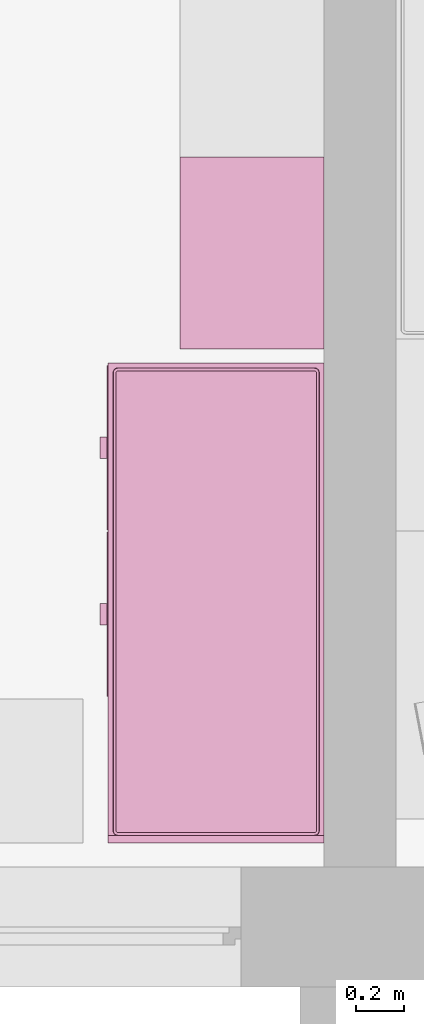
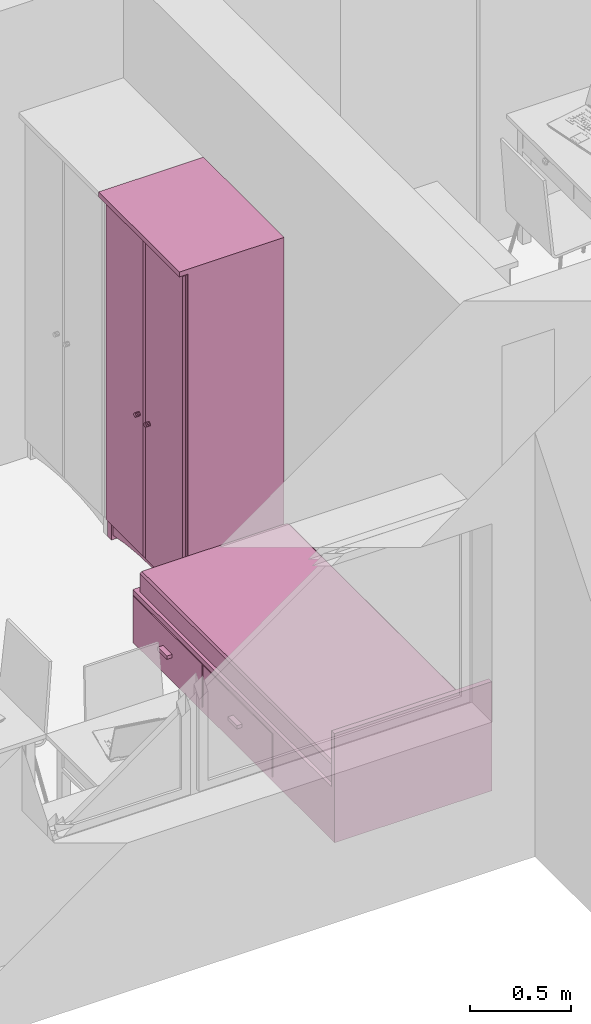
# One storey, part 75 of 172: 2 furnishings.
"""IFC2X3 building model written with IfcOpenShell, lengths in millimetres."""

from ifc_helpers import new_model, entity, si_unit, converted_unit, money_unit, direction, frame, origin_with_axes, place, context, subcontext, project, spatial, faceted_brep, source, transform, mapped, material, material_list, type_object, element, save


model = new_model("IFC2X3")

# Units and contexts
model_context = context("Model", 3, precision=1e-05, world=origin_with_axes(), true_north=direction((0.0, 1.0)))
body_context = subcontext(model_context, "Body", "Model", "MODEL_VIEW")
ifc_project = project(units=[si_unit("LENGTHUNIT", "METRE", prefix="MILLI"), si_unit("AREAUNIT", "SQUARE_METRE"), si_unit("VOLUMEUNIT", "CUBIC_METRE"), converted_unit("PLANEANGLEUNIT", "DEGREE", entity("IfcPlaneAngleMeasure", 0.0174532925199), si_unit("PLANEANGLEUNIT", "RADIAN"), dimensions=[0, 0, 0, 0, 0, 0, 0]), si_unit("SOLIDANGLEUNIT", "STERADIAN"), money_unit("USD"), converted_unit("TIMEUNIT", "Year", entity("IfcTimeMeasure", 31556926.0), si_unit("TIMEUNIT", "SECOND"), dimensions=[0, 0, 0, 0, 0, 0, 0]), si_unit("MASSUNIT", "GRAM"), si_unit("THERMODYNAMICTEMPERATUREUNIT", "DEGREE_CELSIUS"), si_unit("LUMINOUSINTENSITYUNIT", "LUMEN")], contexts=[model_context])

# Site, building, storey
site_placement = place(None, origin_with_axes())
site = spatial("IfcSite", under=ifc_project, at=site_placement, Name="Site", CompositionType="ELEMENT")
building_placement = place(site_placement, origin_with_axes())
building = spatial("IfcBuilding", under=site, at=building_placement, Name="Building", CompositionType="ELEMENT")
storey_placement = place(building_placement, frame((0.0, 0.0, 3200.0), z_axis=(0.0, 0.0, 1.0), x_axis=(1.0, 0.0, 0.0)))
storey = spatial("IfcBuildingStorey", under=building, at=storey_placement, Name="3KORRUS", CompositionType="ELEMENT", Elevation=3200.0)

# Furnishings
ifc_material = material(Name="Background")
ifc_material_list = material_list([ifc_material])
furnishing_element_type_1 = type_object("IfcFurnishingElementType", Name="Bed 19")
shared_shape_1 = source(origin_with_axes(), body_context, "Body", "Brep", [
    faceted_brep([(900.0, 1970.0, 0.0), (0.0, 1970.0, 0.0), (0.0, 2000.0, 0.0), (900.0, 2000.0, 0.0), (900.0, 1970.0, 660.0), (0.0, 1970.0, 660.0), (0.0, 2000.0, 660.0), (900.0, 2000.0, 660.0)], [[[0, 1, 2, 3]], [[1, 0, 4, 5]], [[2, 1, 5, 6]], [[3, 2, 6, 7]], [[0, 3, 7, 4]], [[5, 4, 7, 6]]]),
    faceted_brep([(900.0, 0.0, 0.0), (0.0, 0.0, 0.0), (0.0, 1970.0, 0.0), (900.0, 1970.0, 0.0), (900.0, 0.0, 320.0), (0.0, 0.0, 320.0), (0.0, 1970.0, 320.0), (900.0, 1970.0, 320.0)], [[[0, 1, 2, 3]], [[1, 0, 4, 5]], [[2, 1, 5, 6]], [[3, 2, 6, 7]], [[0, 3, 7, 4]], [[5, 4, 7, 6]]]),
    faceted_brep([(905.0, 10.0, 30.0), (900.0, 10.0, 30.0), (900.0, 695.0, 30.0), (905.0, 695.0, 30.0), (905.0, 10.0, 290.0), (900.0, 10.0, 290.0), (900.0, 695.0, 290.0), (905.0, 695.0, 290.0)], [[[0, 1, 2, 3]], [[1, 0, 4, 5]], [[2, 1, 5, 6]], [[3, 2, 6, 7]], [[0, 3, 7, 4]], [[5, 4, 7, 6]]]),
    faceted_brep([(935.0, 307.5, 150.0), (905.0, 307.5, 150.0), (905.0, 397.5, 150.0), (935.0, 397.5, 150.0), (935.0, 307.5, 170.0), (905.0, 307.5, 170.0), (905.0, 397.5, 170.0), (935.0, 397.5, 170.0)], [[[0, 1, 2, 3]], [[1, 0, 4, 5]], [[2, 1, 5, 6]], [[3, 2, 6, 7]], [[0, 3, 7, 4]], [[5, 4, 7, 6]]]),
    faceted_brep([(905.0, 705.0, 30.0), (900.0, 705.0, 30.0), (900.0, 1390.0, 30.0), (905.0, 1390.0, 30.0), (905.0, 705.0, 290.0), (900.0, 705.0, 290.0), (900.0, 1390.0, 290.0), (905.0, 1390.0, 290.0)], [[[0, 1, 2, 3]], [[1, 0, 4, 5]], [[2, 1, 5, 6]], [[3, 2, 6, 7]], [[0, 3, 7, 4]], [[5, 4, 7, 6]]]),
    faceted_brep([(935.0, 1002.5, 150.0), (905.0, 1002.5, 150.0), (905.0, 1092.5, 150.0), (935.0, 1092.5, 150.0), (935.0, 1002.5, 170.0), (905.0, 1002.5, 170.0), (905.0, 1092.5, 170.0), (935.0, 1092.5, 170.0)], [[[0, 1, 2, 3]], [[1, 0, 4, 5]], [[2, 1, 5, 6]], [[3, 2, 6, 7]], [[0, 3, 7, 4]], [[5, 4, 7, 6]]]),
    faceted_brep([(20.0, 40.0, 350.0), (20.0, 1950.0, 350.0), (21.522, 1957.654, 350.0), (25.858, 1964.142, 350.0), (32.346, 1968.478, 350.0), (40.0, 1970.0, 350.0), (860.0, 1970.0, 350.0), (867.654, 1968.478, 350.0), (874.142, 1964.142, 350.0), (878.478, 1957.654, 350.0), (880.0, 1950.0, 350.0), (880.0, 40.0, 350.0), (878.478, 32.346, 350.0), (874.142, 25.858, 350.0), (867.654, 21.522, 350.0), (860.0, 20.0, 350.0), (40.0, 20.0, 350.0), (32.346, 21.522, 350.0), (25.858, 25.858, 350.0), (21.522, 32.346, 350.0), (20.0, 40.0, 420.0), (20.0, 1950.0, 420.0), (21.522, 1957.654, 420.0), (25.858, 1964.142, 420.0), (32.346, 1968.478, 420.0), (40.0, 1970.0, 420.0), (860.0, 1970.0, 420.0), (867.654, 1968.478, 420.0), (874.142, 1964.142, 420.0), (878.478, 1957.654, 420.0), (880.0, 1950.0, 420.0), (880.0, 40.0, 420.0), (878.478, 32.346, 420.0), (874.142, 25.858, 420.0), (867.654, 21.522, 420.0), (860.0, 20.0, 420.0), (40.0, 20.0, 420.0), (32.346, 21.522, 420.0), (25.858, 25.858, 420.0), (21.522, 32.346, 420.0), (21.522, 40.15, 427.654), (21.522, 1949.85, 427.654), (22.956, 1957.06, 427.654), (26.955, 1963.045, 427.654), (32.94, 1967.044, 427.654), (40.15, 1968.478, 427.654), (859.85, 1968.478, 427.654), (867.06, 1967.044, 427.654), (873.045, 1963.045, 427.654), (877.044, 1957.06, 427.654), (878.478, 1949.85, 427.654), (878.478, 40.15, 427.654), (877.044, 32.94, 427.654), (873.045, 26.955, 427.654), (867.06, 22.956, 427.654), (859.85, 21.522, 427.654), (40.15, 21.522, 427.654), (32.94, 22.956, 427.654), (26.955, 26.955, 427.654), (22.956, 32.94, 427.654), (32.346, 41.216, 438.478), (32.346, 1948.784, 438.478), (33.152, 1952.836, 438.478), (34.759, 1955.241, 438.478), (37.164, 1956.848, 438.478), (41.216, 1957.654, 438.478), (858.784, 1957.654, 438.478), (862.836, 1956.848, 438.478), (865.241, 1955.241, 438.478), (866.848, 1952.836, 438.478), (867.654, 1948.784, 438.478), (867.654, 41.216, 438.478), (866.848, 37.164, 438.478), (865.241, 34.759, 438.478), (862.836, 33.152, 438.478), (858.784, 32.346, 438.478), (41.216, 32.346, 438.478), (37.164, 33.152, 438.478), (34.759, 34.759, 438.478), (33.152, 37.164, 438.478), (40.0, 41.97, 440.0), (40.0, 1948.03, 440.0), (40.327, 1949.673, 440.0), (40.0, 1950.0, 439.924), (41.97, 1950.0, 440.0), (858.03, 1950.0, 440.0), (859.673, 1949.673, 440.0), (860.0, 1950.0, 439.924), (860.0, 1948.03, 440.0), (860.0, 41.97, 440.0), (859.673, 40.327, 440.0), (860.0, 40.0, 439.924), (858.03, 40.0, 440.0), (41.97, 40.0, 440.0), (40.327, 40.327, 440.0), (40.0, 40.0, 439.924)], [[[0, 1, 2, 3, 4, 5, 6, 7, 8, 9, 10, 11, 12, 13, 14, 15, 16, 17, 18, 19]], [[1, 0, 20, 21]], [[2, 1, 21, 22]], [[3, 2, 22, 23]], [[4, 3, 23, 24]], [[5, 4, 24, 25]], [[6, 5, 25, 26]], [[7, 6, 26, 27]], [[8, 7, 27, 28]], [[9, 8, 28, 29]], [[10, 9, 29, 30]], [[11, 10, 30, 31]], [[12, 11, 31, 32]], [[13, 12, 32, 33]], [[14, 13, 33, 34]], [[15, 14, 34, 35]], [[16, 15, 35, 36]], [[17, 16, 36, 37]], [[18, 17, 37, 38]], [[19, 18, 38, 39]], [[0, 19, 39, 20]], [[21, 20, 40, 41]], [[22, 21, 41, 42]], [[23, 22, 42, 43]], [[24, 23, 43, 44]], [[25, 24, 44, 45]], [[26, 25, 45, 46]], [[27, 26, 46, 47]], [[28, 27, 47, 48]], [[29, 28, 48, 49]], [[30, 29, 49, 50]], [[31, 30, 50, 51]], [[32, 31, 51, 52]], [[33, 32, 52, 53]], [[34, 33, 53, 54]], [[35, 34, 54, 55]], [[36, 35, 55, 56]], [[37, 36, 56, 57]], [[38, 37, 57, 58]], [[39, 38, 58, 59]], [[20, 39, 59, 40]], [[41, 40, 60, 61]], [[42, 41, 61, 62]], [[43, 42, 62, 63]], [[44, 43, 63, 64]], [[45, 44, 64, 65]], [[46, 45, 65, 66]], [[47, 46, 66, 67]], [[48, 47, 67, 68]], [[49, 48, 68, 69]], [[50, 49, 69, 70]], [[51, 50, 70, 71]], [[52, 51, 71, 72]], [[53, 52, 72, 73]], [[54, 53, 73, 74]], [[55, 54, 74, 75]], [[56, 55, 75, 76]], [[57, 56, 76, 77]], [[58, 57, 77, 78]], [[59, 58, 78, 79]], [[40, 59, 79, 60]], [[61, 60, 80, 81]], [[62, 61, 81, 82, 83]], [[63, 62, 83]], [[64, 63, 83]], [[65, 64, 83, 82, 84]], [[66, 65, 84, 85]], [[67, 66, 85, 86, 87]], [[68, 67, 87]], [[69, 68, 87]], [[70, 69, 87, 86, 88]], [[71, 70, 88, 89]], [[72, 71, 89, 90, 91]], [[73, 72, 91]], [[74, 73, 91]], [[75, 74, 91, 90, 92]], [[76, 75, 92, 93]], [[77, 76, 93, 94, 95]], [[78, 77, 95]], [[79, 78, 95]], [[60, 79, 95, 94, 80]], [[81, 80, 94, 93, 92, 90, 89, 88, 86, 85, 84, 82]]]),
    faceted_brep([(20.0, 40.0, 350.0), (21.522, 32.346, 350.0), (25.858, 25.858, 350.0), (32.346, 21.522, 350.0), (40.0, 20.0, 350.0), (860.0, 20.0, 350.0), (867.654, 21.522, 350.0), (874.142, 25.858, 350.0), (878.478, 32.346, 350.0), (880.0, 40.0, 350.0), (880.0, 1950.0, 350.0), (878.478, 1957.654, 350.0), (874.142, 1964.142, 350.0), (867.654, 1968.478, 350.0), (860.0, 1970.0, 350.0), (40.0, 1970.0, 350.0), (32.346, 1968.478, 350.0), (25.858, 1964.142, 350.0), (21.522, 1957.654, 350.0), (20.0, 1950.0, 350.0), (20.0, 40.0, 320.0), (21.522, 32.346, 320.0), (25.858, 25.858, 320.0), (32.346, 21.522, 320.0), (40.0, 20.0, 320.0), (860.0, 20.0, 320.0), (867.654, 21.522, 320.0), (874.142, 25.858, 320.0), (878.478, 32.346, 320.0), (880.0, 40.0, 320.0), (880.0, 1950.0, 320.0), (878.478, 1957.654, 320.0), (874.142, 1964.142, 320.0), (867.654, 1968.478, 320.0), (860.0, 1970.0, 320.0), (40.0, 1970.0, 320.0), (32.346, 1968.478, 320.0), (25.858, 1964.142, 320.0), (21.522, 1957.654, 320.0), (20.0, 1950.0, 320.0)], [[[0, 1, 2, 3, 4, 5, 6, 7, 8, 9, 10, 11, 12, 13, 14, 15, 16, 17, 18, 19]], [[0, 20, 21, 1]], [[1, 21, 22, 2]], [[2, 22, 23, 3]], [[3, 23, 24, 4]], [[4, 24, 25, 5]], [[5, 25, 26, 6]], [[6, 26, 27, 7]], [[7, 27, 28, 8]], [[8, 28, 29, 9]], [[9, 29, 30, 10]], [[10, 30, 31, 11]], [[11, 31, 32, 12]], [[12, 32, 33, 13]], [[13, 33, 34, 14]], [[14, 34, 35, 15]], [[15, 35, 36, 16]], [[16, 36, 37, 17]], [[17, 37, 38, 18]], [[18, 38, 39, 19]], [[19, 39, 20, 0]], [[20, 39, 38, 37, 36, 35, 34, 33, 32, 31, 30, 29, 28, 27, 26, 25, 24, 23, 22, 21]]]),
])
furnishing_1_placement = place(storey_placement, frame((-48290.2967033, -17539.2398994, 0.0), z_axis=(0.0, 0.0, 1.0), x_axis=(-1.0, 0.0, 0.0)))
element("IfcFurnishingElement", 1, at=furnishing_1_placement, inside=storey, type_object=furnishing_element_type_1, material=ifc_material_list, Name="FU - 013", context=body_context, shape_type="MappedRepresentation", body=[
    mapped(shared_shape_1, transform((0.0, 0.0, 0.0))),
])
furnishing_element_type_2 = type_object("IfcFurnishingElementType", Name="Cupboard 19")
shared_shape_2 = source(origin_with_axes(), body_context, "Body", "Brep", [
    faceted_brep([(780.0, 600.0, 120.0), (780.0, 600.0, 2050.0), (780.0, 580.0, 2050.0), (780.0, 580.0, 120.0), (20.0, 600.0, 120.0), (20.0, 600.0, 2050.0), (20.0, 580.0, 2050.0), (20.0, 580.0, 120.0)], [[[0, 1, 2, 3]], [[4, 5, 1, 0]], [[1, 5, 6, 2]], [[3, 2, 6, 7]], [[0, 3, 7, 4]], [[7, 6, 5, 4]]]),
    faceted_brep([(0.0, 50.0, 100.0), (0.0, 600.0, 100.0), (20.0, 600.0, 100.0), (20.0, 50.0, 100.0), (0.0, 50.0, 2070.0), (0.0, 600.0, 2070.0), (20.0, 600.0, 2070.0), (20.0, 50.0, 2070.0)], [[[0, 1, 2, 3]], [[0, 4, 5, 1]], [[1, 5, 6, 2]], [[2, 6, 7, 3]], [[3, 7, 4, 0]], [[7, 6, 5, 4]]]),
    faceted_brep([(780.0, 50.0, 100.0), (780.0, 600.0, 100.0), (800.0, 600.0, 100.0), (800.0, 50.0, 100.0), (780.0, 50.0, 2070.0), (780.0, 600.0, 2070.0), (800.0, 600.0, 2070.0), (800.0, 50.0, 2070.0)], [[[0, 1, 2, 3]], [[0, 4, 5, 1]], [[1, 5, 6, 2]], [[2, 6, 7, 3]], [[3, 7, 4, 0]], [[7, 6, 5, 4]]]),
    faceted_brep([(20.0, 50.0, 100.0), (20.0, 600.0, 100.0), (780.0, 600.0, 100.0), (780.0, 50.0, 100.0), (20.0, 50.0, 120.0), (20.0, 600.0, 120.0), (780.0, 600.0, 120.0), (780.0, 50.0, 120.0)], [[[0, 1, 2, 3]], [[0, 4, 5, 1]], [[1, 5, 6, 2]], [[2, 6, 7, 3]], [[3, 7, 4, 0]], [[7, 6, 5, 4]]]),
    faceted_brep([(20.0, 50.0, 2050.0), (20.0, 600.0, 2050.0), (780.0, 600.0, 2050.0), (780.0, 50.0, 2050.0), (20.0, 50.0, 2070.0), (20.0, 600.0, 2070.0), (780.0, 600.0, 2070.0), (780.0, 50.0, 2070.0)], [[[0, 1, 2, 3]], [[0, 4, 5, 1]], [[1, 5, 6, 2]], [[2, 6, 7, 3]], [[3, 7, 4, 0]], [[7, 6, 5, 4]]]),
    faceted_brep([(0.0, 600.0, 2070.0), (0.0, 0.0, 2070.0), (0.0, 0.0, 2100.0), (0.0, 600.0, 2100.0), (800.0, 600.0, 2070.0), (800.0, 0.0, 2070.0), (800.0, 0.0, 2100.0), (800.0, 600.0, 2100.0)], [[[0, 1, 2, 3]], [[0, 4, 5, 1]], [[1, 5, 6, 2]], [[3, 2, 6, 7]], [[4, 0, 3, 7]], [[5, 4, 7, 6]]]),
    faceted_brep([(760.0, 590.0, 25.0), (760.0, 570.0, 25.0), (640.962, 570.0, 45.8), (640.962, 590.0, 45.8), (760.0, 590.0, 100.0), (760.0, 570.0, 100.0), (40.0, 570.0, 100.0), (40.0, 570.0, 25.0), (159.038, 570.0, 45.8), (279.23, 570.0, 58.32), (400.0, 570.0, 62.5), (520.77, 570.0, 58.32), (520.77, 590.0, 58.32), (400.0, 590.0, 62.5), (279.23, 590.0, 58.32), (159.038, 590.0, 45.8), (40.0, 590.0, 25.0), (40.0, 590.0, 100.0)], [[[0, 1, 2, 3]], [[4, 5, 1, 0]], [[1, 5, 6, 7, 8, 9, 10, 11, 2]], [[3, 2, 11, 12]], [[0, 3, 12, 13, 14, 15, 16, 17, 4]], [[17, 6, 5, 4]], [[16, 7, 6, 17]], [[15, 8, 7, 16]], [[14, 9, 8, 15]], [[13, 10, 9, 14]], [[12, 11, 10, 13]]]),
    faceted_brep([(760.0, 80.0, 25.0), (760.0, 60.0, 25.0), (640.962, 60.0, 45.8), (640.962, 80.0, 45.8), (760.0, 80.0, 100.0), (760.0, 60.0, 100.0), (40.0, 60.0, 100.0), (40.0, 60.0, 25.0), (159.038, 60.0, 45.8), (279.23, 60.0, 58.32), (400.0, 60.0, 62.5), (520.77, 60.0, 58.32), (520.77, 80.0, 58.32), (400.0, 80.0, 62.5), (279.23, 80.0, 58.32), (159.038, 80.0, 45.8), (40.0, 80.0, 25.0), (40.0, 80.0, 100.0)], [[[0, 1, 2, 3]], [[4, 5, 1, 0]], [[1, 5, 6, 7, 8, 9, 10, 11, 2]], [[3, 2, 11, 12]], [[0, 3, 12, 13, 14, 15, 16, 17, 4]], [[17, 6, 5, 4]], [[16, 7, 6, 17]], [[15, 8, 7, 16]], [[14, 9, 8, 15]], [[13, 10, 9, 14]], [[12, 11, 10, 13]]]),
    faceted_brep([(790.0, 90.0, 25.0), (770.0, 90.0, 25.0), (770.0, 141.266, 38.072), (790.0, 141.266, 38.072), (790.0, 90.0, 100.0), (770.0, 90.0, 100.0), (770.0, 560.0, 100.0), (770.0, 560.0, 25.0), (770.0, 508.734, 38.072), (770.0, 456.752, 47.92), (770.0, 404.257, 54.508), (770.0, 351.453, 57.808), (770.0, 298.547, 57.808), (770.0, 245.743, 54.508), (770.0, 193.248, 47.92), (790.0, 193.248, 47.92), (790.0, 245.743, 54.508), (790.0, 298.547, 57.808), (790.0, 351.453, 57.808), (790.0, 404.257, 54.508), (790.0, 456.752, 47.92), (790.0, 508.734, 38.072), (790.0, 560.0, 25.0), (790.0, 560.0, 100.0)], [[[0, 1, 2, 3]], [[4, 5, 1, 0]], [[1, 5, 6, 7, 8, 9, 10, 11, 12, 13, 14, 2]], [[3, 2, 14, 15]], [[0, 3, 15, 16, 17, 18, 19, 20, 21, 22, 23, 4]], [[23, 6, 5, 4]], [[22, 7, 6, 23]], [[21, 8, 7, 22]], [[20, 9, 8, 21]], [[19, 10, 9, 20]], [[18, 11, 10, 19]], [[17, 12, 11, 18]], [[16, 13, 12, 17]], [[15, 14, 13, 16]]]),
    faceted_brep([(30.0, 90.0, 25.0), (10.0, 90.0, 25.0), (10.0, 141.266, 38.072), (30.0, 141.266, 38.072), (30.0, 90.0, 100.0), (10.0, 90.0, 100.0), (10.0, 560.0, 100.0), (10.0, 560.0, 25.0), (10.0, 508.734, 38.072), (10.0, 456.752, 47.92), (10.0, 404.257, 54.508), (10.0, 351.453, 57.808), (10.0, 298.547, 57.808), (10.0, 245.743, 54.508), (10.0, 193.248, 47.92), (30.0, 193.248, 47.92), (30.0, 245.743, 54.508), (30.0, 298.547, 57.808), (30.0, 351.453, 57.808), (30.0, 404.257, 54.508), (30.0, 456.752, 47.92), (30.0, 508.734, 38.072), (30.0, 560.0, 25.0), (30.0, 560.0, 100.0)], [[[0, 1, 2, 3]], [[4, 5, 1, 0]], [[1, 5, 6, 7, 8, 9, 10, 11, 12, 13, 14, 2]], [[3, 2, 14, 15]], [[0, 3, 15, 16, 17, 18, 19, 20, 21, 22, 23, 4]], [[23, 6, 5, 4]], [[22, 7, 6, 23]], [[21, 8, 7, 22]], [[20, 9, 8, 21]], [[19, 10, 9, 20]], [[18, 11, 10, 19]], [[17, 12, 11, 18]], [[16, 13, 12, 17]], [[15, 14, 13, 16]]]),
    faceted_brep([(760.0, 560.0, 0.0), (760.0, 560.0, 100.0), (760.0, 600.0, 100.0), (760.0, 600.0, 0.0), (800.0, 560.0, 0.0), (800.0, 560.0, 100.0), (800.0, 600.0, 100.0), (800.0, 600.0, 0.0)], [[[0, 1, 2, 3]], [[4, 5, 1, 0]], [[1, 5, 6, 2]], [[3, 2, 6, 7]], [[0, 3, 7, 4]], [[7, 6, 5, 4]]]),
    faceted_brep([(0.0, 560.0, 0.0), (0.0, 560.0, 100.0), (0.0, 600.0, 100.0), (0.0, 600.0, 0.0), (40.0, 560.0, 0.0), (40.0, 560.0, 100.0), (40.0, 600.0, 100.0), (40.0, 600.0, 0.0)], [[[0, 1, 2, 3]], [[4, 5, 1, 0]], [[1, 5, 6, 2]], [[3, 2, 6, 7]], [[0, 3, 7, 4]], [[7, 6, 5, 4]]]),
    faceted_brep([(760.0, 50.0, 0.0), (760.0, 50.0, 100.0), (760.0, 90.0, 100.0), (760.0, 90.0, 0.0), (800.0, 50.0, 0.0), (800.0, 50.0, 100.0), (800.0, 90.0, 100.0), (800.0, 90.0, 0.0)], [[[0, 1, 2, 3]], [[4, 5, 1, 0]], [[1, 5, 6, 2]], [[3, 2, 6, 7]], [[0, 3, 7, 4]], [[7, 6, 5, 4]]]),
    faceted_brep([(0.0, 50.0, 0.0), (0.0, 50.0, 100.0), (0.0, 90.0, 100.0), (0.0, 90.0, 0.0), (40.0, 50.0, 0.0), (40.0, 50.0, 100.0), (40.0, 90.0, 100.0), (40.0, 90.0, 0.0)], [[[0, 1, 2, 3]], [[4, 5, 1, 0]], [[1, 5, 6, 2]], [[3, 2, 6, 7]], [[0, 3, 7, 4]], [[7, 6, 5, 4]]]),
    faceted_brep([(780.0, 580.0, 587.5), (780.0, 580.0, 607.5), (780.0, 50.0, 607.5), (780.0, 50.0, 587.5), (20.0, 580.0, 587.5), (20.0, 580.0, 607.5), (20.0, 50.0, 607.5), (20.0, 50.0, 587.5)], [[[0, 1, 2, 3]], [[4, 5, 1, 0]], [[1, 5, 6, 2]], [[3, 2, 6, 7]], [[0, 3, 7, 4]], [[7, 6, 5, 4]]]),
    faceted_brep([(780.0, 580.0, 1075.0), (780.0, 580.0, 1095.0), (780.0, 50.0, 1095.0), (780.0, 50.0, 1075.0), (20.0, 580.0, 1075.0), (20.0, 580.0, 1095.0), (20.0, 50.0, 1095.0), (20.0, 50.0, 1075.0)], [[[0, 1, 2, 3]], [[4, 5, 1, 0]], [[1, 5, 6, 2]], [[3, 2, 6, 7]], [[0, 3, 7, 4]], [[7, 6, 5, 4]]]),
    faceted_brep([(780.0, 580.0, 1562.5), (780.0, 580.0, 1582.5), (780.0, 50.0, 1582.5), (780.0, 50.0, 1562.5), (20.0, 580.0, 1562.5), (20.0, 580.0, 1582.5), (20.0, 50.0, 1582.5), (20.0, 50.0, 1562.5)], [[[0, 1, 2, 3]], [[4, 5, 1, 0]], [[1, 5, 6, 2]], [[3, 2, 6, 7]], [[0, 3, 7, 4]], [[7, 6, 5, 4]]]),
    faceted_brep([(789.5, 50.0, 110.5), (400.5, 50.0, 110.5), (400.5, 50.0, 2059.5), (789.5, 50.0, 2059.5), (789.5, 40.0, 110.5), (400.5, 40.0, 110.5), (400.5, 40.0, 2059.5), (789.5, 40.0, 2059.5), (779.5, 30.0, 120.5), (410.5, 30.0, 120.5), (410.5, 30.0, 2049.5), (779.5, 30.0, 2049.5)], [[[0, 1, 2, 3]], [[0, 4, 5, 1]], [[1, 5, 6, 2]], [[2, 6, 7, 3]], [[3, 7, 4, 0]], [[4, 8, 9, 5]], [[5, 9, 10, 6]], [[6, 10, 11, 7]], [[7, 11, 8, 4]], [[10, 9, 8, 11]]]),
    faceted_brep([(399.5, 50.0, 110.5), (10.5, 50.0, 110.5), (10.5, 50.0, 2059.5), (399.5, 50.0, 2059.5), (399.5, 40.0, 110.5), (10.5, 40.0, 110.5), (10.5, 40.0, 2059.5), (399.5, 40.0, 2059.5), (389.5, 30.0, 120.5), (20.5, 30.0, 120.5), (20.5, 30.0, 2049.5), (389.5, 30.0, 2049.5)], [[[0, 1, 2, 3]], [[0, 4, 5, 1]], [[1, 5, 6, 2]], [[2, 6, 7, 3]], [[3, 7, 4, 0]], [[4, 8, 9, 5]], [[5, 9, 10, 6]], [[6, 10, 11, 7]], [[7, 11, 8, 4]], [[10, 9, 8, 11]]]),
    faceted_brep([(339.608, 30.0, 954.0), (338.0, 30.0, 960.0), (339.608, 30.0, 966.0), (344.0, 30.0, 970.392), (350.0, 30.0, 972.0), (356.0, 30.0, 970.392), (360.392, 30.0, 966.0), (362.0, 30.0, 960.0), (360.392, 30.0, 954.0), (356.0, 30.0, 949.608), (350.0, 30.0, 948.0), (344.0, 30.0, 949.608), (339.608, 5.0, 954.0), (338.0, 5.0, 960.0), (339.608, 5.0, 966.0), (344.0, 5.0, 970.392), (350.0, 5.0, 972.0), (356.0, 5.0, 970.392), (360.392, 5.0, 966.0), (362.0, 5.0, 960.0), (360.392, 5.0, 954.0), (356.0, 5.0, 949.608), (350.0, 5.0, 948.0), (344.0, 5.0, 949.608)], [[[0, 1, 2, 3, 4, 5, 6, 7, 8, 9, 10, 11]], [[0, 12, 13, 1]], [[1, 13, 14, 2]], [[2, 14, 15, 3]], [[3, 15, 16, 4]], [[4, 16, 17, 5]], [[5, 17, 18, 6]], [[6, 18, 19, 7]], [[7, 19, 20, 8]], [[8, 20, 21, 9]], [[9, 21, 22, 10]], [[10, 22, 23, 11]], [[11, 23, 12, 0]], [[12, 23, 22, 21, 20, 19, 18, 17, 16, 15, 14, 13]]]),
    faceted_brep([(460.392, 30.0, 954.0), (456.0, 30.0, 949.608), (450.0, 30.0, 948.0), (444.0, 30.0, 949.608), (439.608, 30.0, 954.0), (438.0, 30.0, 960.0), (439.608, 30.0, 966.0), (444.0, 30.0, 970.392), (450.0, 30.0, 972.0), (456.0, 30.0, 970.392), (460.392, 30.0, 966.0), (462.0, 30.0, 960.0), (460.392, 5.0, 954.0), (456.0, 5.0, 949.608), (450.0, 5.0, 948.0), (444.0, 5.0, 949.608), (439.608, 5.0, 954.0), (438.0, 5.0, 960.0), (439.608, 5.0, 966.0), (444.0, 5.0, 970.392), (450.0, 5.0, 972.0), (456.0, 5.0, 970.392), (460.392, 5.0, 966.0), (462.0, 5.0, 960.0)], [[[0, 1, 2, 3, 4, 5, 6, 7, 8, 9, 10, 11]], [[1, 0, 12, 13]], [[2, 1, 13, 14]], [[3, 2, 14, 15]], [[4, 3, 15, 16]], [[5, 4, 16, 17]], [[6, 5, 17, 18]], [[7, 6, 18, 19]], [[8, 7, 19, 20]], [[9, 8, 20, 21]], [[10, 9, 21, 22]], [[11, 10, 22, 23]], [[0, 11, 23, 12]], [[12, 23, 22, 21, 20, 19, 18, 17, 16, 15, 14, 13]]]),
])
furnishing_2_placement = place(storey_placement, frame((-48890.2967033, -16680.9451777, 0.0), z_axis=(0.0, 0.0, 1.0), x_axis=(0.0, -1.0, 0.0)))
element("IfcFurnishingElement", 2, at=furnishing_2_placement, inside=storey, type_object=furnishing_element_type_2, material=ifc_material_list, Name="FU - 014", context=body_context, shape_type="MappedRepresentation", body=[
    mapped(shared_shape_2, transform((0.0, 0.0, 0.0))),
])

save(model, "model.ifc")
